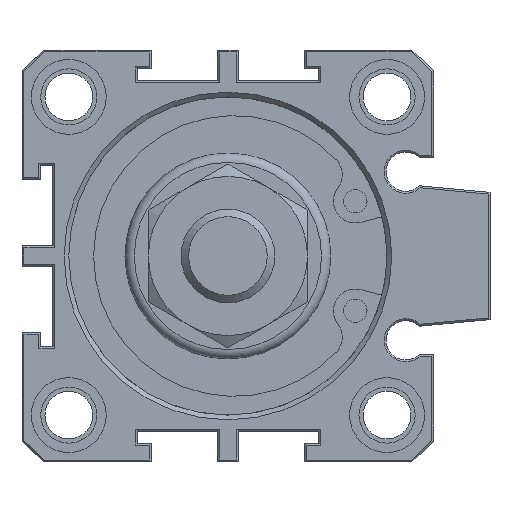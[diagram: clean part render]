
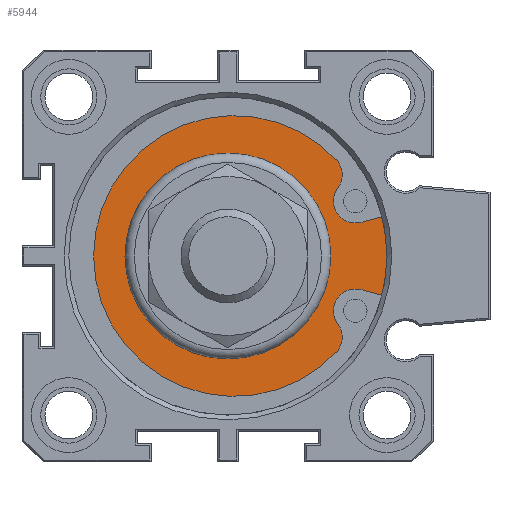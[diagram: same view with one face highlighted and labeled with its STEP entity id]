
A CAD part, front view. The second image highlights one B-rep face of the part: STEP entity #5944.
In plain terms, the highlighted planar face has unit normal (0, -1, 0).
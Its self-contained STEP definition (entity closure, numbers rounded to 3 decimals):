
#364=LINE('',#8455,#752);
#365=LINE('',#8467,#753);
#752=VECTOR('',#7158,1000.);
#753=VECTOR('',#7169,1000.);
#1363=ORIENTED_EDGE('',*,*,#2358,.F.);
#1364=ORIENTED_EDGE('',*,*,#2356,.F.);
#1365=ORIENTED_EDGE('',*,*,#2359,.T.);
#1366=ORIENTED_EDGE('',*,*,#2360,.T.);
#1367=ORIENTED_EDGE('',*,*,#2361,.T.);
#1368=ORIENTED_EDGE('',*,*,#2362,.T.);
#1369=ORIENTED_EDGE('',*,*,#2363,.T.);
#1370=ORIENTED_EDGE('',*,*,#2364,.T.);
#1371=ORIENTED_EDGE('',*,*,#2365,.T.);
#2356=EDGE_CURVE('',#2847,#2848,#2986,.T.);
#2358=EDGE_CURVE('',#2849,#2849,#2987,.F.);
#2359=EDGE_CURVE('',#2847,#2850,#364,.T.);
#2360=EDGE_CURVE('',#2850,#2851,#2988,.T.);
#2361=EDGE_CURVE('',#2851,#2852,#2989,.T.);
#2362=EDGE_CURVE('',#2852,#2853,#2990,.T.);
#2363=EDGE_CURVE('',#2853,#2854,#2991,.T.);
#2364=EDGE_CURVE('',#2854,#2855,#2992,.T.);
#2365=EDGE_CURVE('',#2855,#2848,#365,.T.);
#2847=VERTEX_POINT('',#8448);
#2848=VERTEX_POINT('',#8450);
#2849=VERTEX_POINT('',#8454);
#2850=VERTEX_POINT('',#8456);
#2851=VERTEX_POINT('',#8458);
#2852=VERTEX_POINT('',#8460);
#2853=VERTEX_POINT('',#8462);
#2854=VERTEX_POINT('',#8464);
#2855=VERTEX_POINT('',#8466);
#2986=CIRCLE('',#6302,17.85);
#2987=CIRCLE('',#6304,11.);
#2988=CIRCLE('',#6305,2.34);
#2989=CIRCLE('',#6306,2.34);
#2990=CIRCLE('',#6307,15.);
#2991=CIRCLE('',#6308,2.34);
#2992=CIRCLE('',#6309,2.34);
#3192=EDGE_LOOP('',(#1363));
#3193=EDGE_LOOP('',(#1364,#1365,#1366,#1367,#1368,#1369,#1370,#1371));
#3540=FACE_BOUND('',#3192,.T.);
#3541=FACE_BOUND('',#3193,.T.);
#3802=PLANE('',#6303);
#5944=ADVANCED_FACE('',(#3540,#3541),#3802,.F.);
#6302=AXIS2_PLACEMENT_3D('',#8449,#7151,#7152);
#6303=AXIS2_PLACEMENT_3D('',#8452,#7154,#7155);
#6304=AXIS2_PLACEMENT_3D('',#8453,#7156,#7157);
#6305=AXIS2_PLACEMENT_3D('',#8457,#7159,#7160);
#6306=AXIS2_PLACEMENT_3D('',#8459,#7161,#7162);
#6307=AXIS2_PLACEMENT_3D('',#8461,#7163,#7164);
#6308=AXIS2_PLACEMENT_3D('',#8463,#7165,#7166);
#6309=AXIS2_PLACEMENT_3D('',#8465,#7167,#7168);
#7151=DIRECTION('',(0.,1.,0.));
#7152=DIRECTION('',(-1.,0.,0.));
#7154=DIRECTION('',(0.,1.,0.));
#7155=DIRECTION('',(-1.,0.,0.));
#7156=DIRECTION('',(0.,1.,0.));
#7157=DIRECTION('',(-1.,0.,0.));
#7158=DIRECTION('',(-0.966,0.,-0.259));
#7159=DIRECTION('',(0.,1.,0.));
#7160=DIRECTION('',(1.,0.,0.));
#7161=DIRECTION('',(0.,-1.,0.));
#7162=DIRECTION('',(-1.,0.,0.));
#7163=DIRECTION('',(0.,-1.,0.));
#7164=DIRECTION('',(1.,0.,0.));
#7165=DIRECTION('',(0.,-1.,0.));
#7166=DIRECTION('',(-1.,0.,0.));
#7167=DIRECTION('',(0.,1.,0.));
#7168=DIRECTION('',(1.,0.,0.));
#7169=DIRECTION('',(0.966,0.,-0.259));
#8448=CARTESIAN_POINT('',(17.293,3.7,4.425));
#8449=CARTESIAN_POINT('',(0.,3.7,0.));
#8450=CARTESIAN_POINT('',(17.293,3.7,-4.425));
#8452=CARTESIAN_POINT('',(0.,3.7,-2.5));
#8453=CARTESIAN_POINT('',(0.,3.7,0.));
#8454=CARTESIAN_POINT('',(-11.,3.7,0.));
#8455=CARTESIAN_POINT('',(17.293,3.7,4.425));
#8456=CARTESIAN_POINT('',(14.218,3.7,3.601));
#8457=CARTESIAN_POINT('',(13.612,3.7,5.861));
#8458=CARTESIAN_POINT('',(11.719,3.7,7.237));
#8459=CARTESIAN_POINT('',(9.875,3.7,8.677));
#8460=CARTESIAN_POINT('',(11.688,3.7,10.157));
#8461=CARTESIAN_POINT('',(0.65,3.7,0.));
#8462=CARTESIAN_POINT('',(11.688,3.7,-10.157));
#8463=CARTESIAN_POINT('',(9.875,3.7,-8.677));
#8464=CARTESIAN_POINT('',(11.719,3.7,-7.237));
#8465=CARTESIAN_POINT('',(13.612,3.7,-5.861));
#8466=CARTESIAN_POINT('',(14.218,3.7,-3.601));
#8467=CARTESIAN_POINT('',(14.218,3.7,-3.601));
